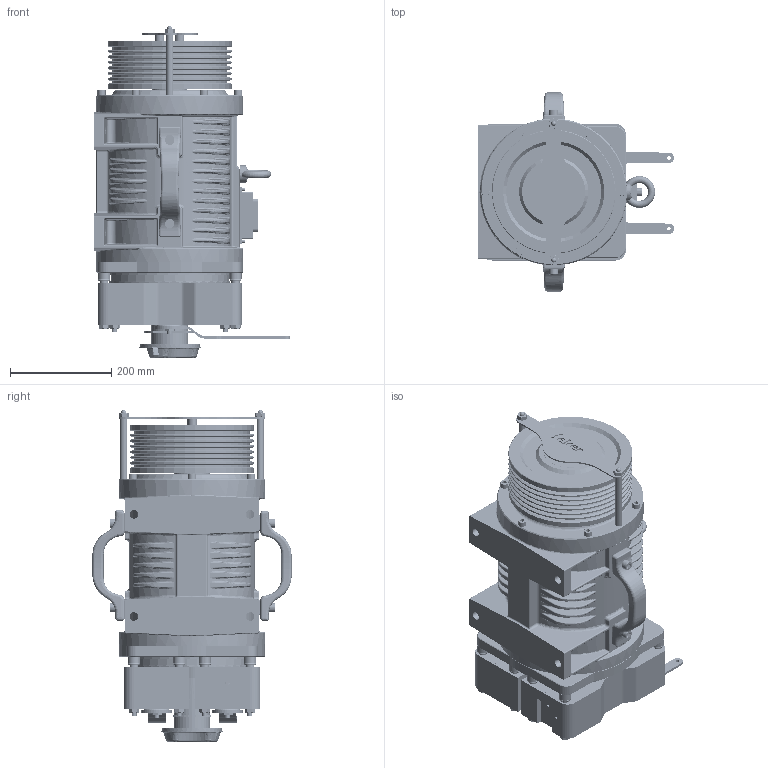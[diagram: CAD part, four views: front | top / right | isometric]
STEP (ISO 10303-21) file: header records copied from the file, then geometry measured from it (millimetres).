
FILE_DESCRIPTION (( 'STEP AP214' ), '1' );
FILE_NAME ('QS22463100.STEP', '2025-12-25T08:54:46', ( '' ), ( '' ), 'SwSTEP 2.0', 'SolidWorks 2023', '' );
FILE_SCHEMA (( 'AUTOMOTIVE_DESIGN' ));
Length unit declared in the file: millimetre
Products named in the file (1): QS22463100
Bounding box: 388.05 x 394 x 656.65 mm (x, y, z)
Volume: 27656212.7 mm3; surface area: 2414585.7 mm2
Topology: 89 solids, 137 shells, 4828 faces, 11552 edges, 7183 vertices
Faces by surface type: cylinder 1774, plane 1504, bspline 685, cone 565, torus 250, sphere 50
Entity records: 174740 total; most frequent: CARTESIAN_POINT 66703, ORIENTED_EDGE 22910, DIRECTION 21937, EDGE_CURVE 11455, AXIS2_PLACEMENT_3D 8808, VERTEX_POINT 7167, EDGE_LOOP 5308, ADVANCED_FACE 4828
